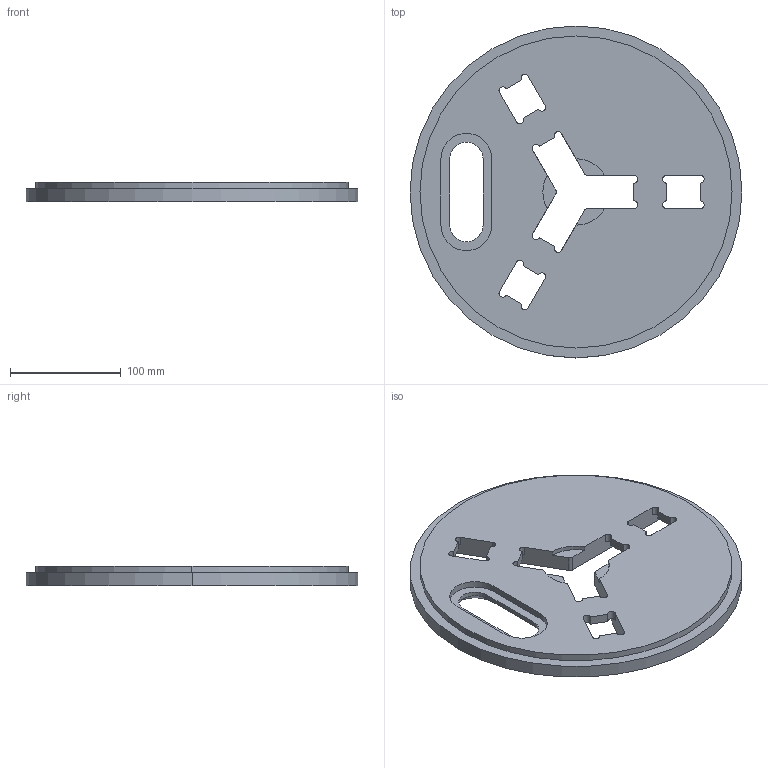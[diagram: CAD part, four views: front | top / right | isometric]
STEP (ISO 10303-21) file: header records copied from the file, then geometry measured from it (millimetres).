
FILE_DESCRIPTION (( 'STEP AP214' ), '1' );
FILE_NAME ('assise-inferieure.STEP', '2018-03-29T09:43:39', ( '' ), ( '' ), 'SwSTEP 2.0', 'SolidWorks 2014', '' );
FILE_SCHEMA (( 'AUTOMOTIVE_DESIGN' ));
Length unit declared in the file: millimetre
Products named in the file (1): assise-inferieure
Bounding box: 300 x 300 x 18 mm (x, y, z)
Volume: 989810.8 mm3; surface area: 155597 mm2
Topology: 1 solids, 1 shells, 91 faces, 266 edges, 176 vertices
Faces by surface type: cylinder 52, plane 37, cone 2
Entity records: 3108 total; most frequent: DIRECTION 556, CARTESIAN_POINT 534, ORIENTED_EDGE 532, EDGE_CURVE 266, AXIS2_PLACEMENT_3D 198, VERTEX_POINT 176, VECTOR 160, LINE 160
